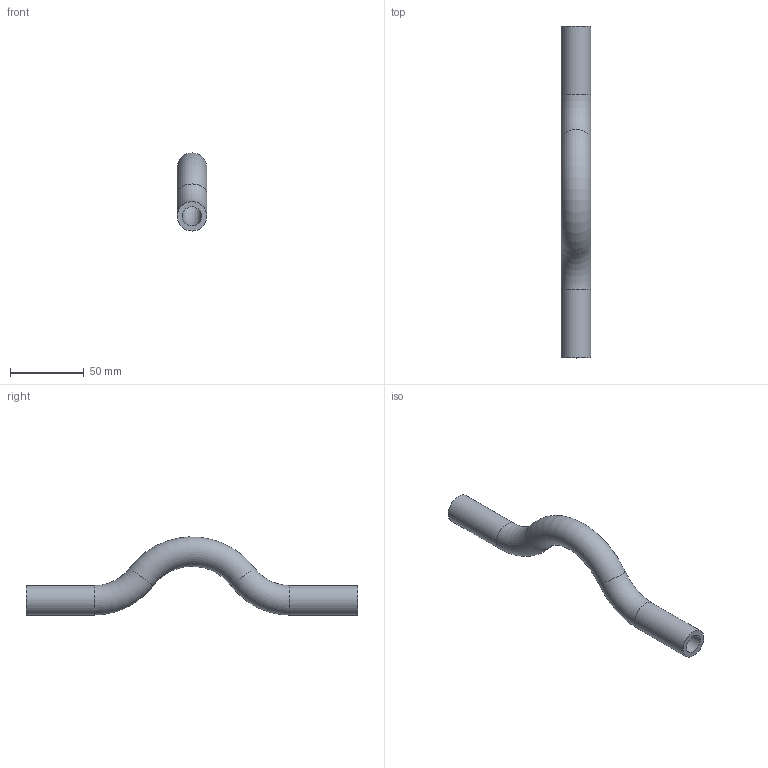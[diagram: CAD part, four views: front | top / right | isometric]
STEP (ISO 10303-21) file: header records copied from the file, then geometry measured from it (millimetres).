
FILE_DESCRIPTION(('STEP AP203'), '1');
FILE_NAME('ÂÐ.747111.024 - VTp.793.0.020', '', ('UNSPECIFIED'), ('UNSPECIFIED'), 'C3D Converter', 'C3D Toolkit', '');
FILE_SCHEMA(('CONFIG_CONTROL_DESIGN'));
Length unit declared in the file: millimetre
Products named in the file (1): ВР.747111.024
Bounding box: 20 x 225 x 52.96 mm (x, y, z)
Volume: 44618.6 mm3; surface area: 25859.2 mm2
Topology: 1 solids, 1 shells, 12 faces, 22 edges, 12 vertices
Faces by surface type: torus 6, cylinder 4, plane 2
Full cylindrical faces by diameter (mm): 13 x2, 20 x2
Entity records: 288 total; most frequent: DIRECTION 50, CARTESIAN_POINT 37, AXIS2_PLACEMENT_3D 25, EDGE_LOOP 24, ORIENTED_EDGE 24, FACE_OUTER_BOUND 20, ADVANCED_FACE 12, EDGE_CURVE 12
